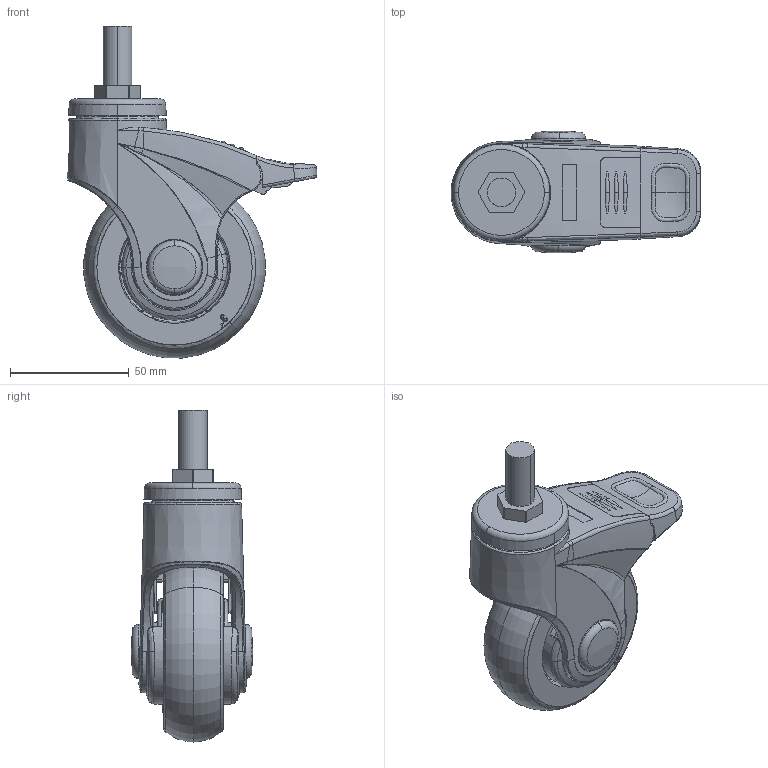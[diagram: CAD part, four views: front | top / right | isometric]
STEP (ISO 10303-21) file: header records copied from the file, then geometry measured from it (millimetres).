
FILE_DESCRIPTION(/* description */ (''),/* implementation_level */ '2;1');
FILE_NAME(/* name */ '80N11_3_F.stp',/* time_stamp */ '2022-10-17T15:50:27+08:00',/* author */ (''),/* organization */ (''),/* preprocessor_version */ 'ST-DEVELOPER v14',/* originating_system */ 'SIEMENS PLM Software NX 8.0',/* authorisation */ '');
FILE_SCHEMA (('AUTOMOTIVE_DESIGN { 1 0 10303 214 3 1 1 1 }'));
Products named in the file (1): 80N11_3_F
Bounding box: 105.07 x 51.02 x 139.6 mm (x, y, z)
Volume: 175140.5 mm3; surface area: 72540.2 mm2
Topology: 1 solids, 18 shells, 2160 faces, 6046 edges, 3944 vertices
Faces by surface type: plane 1110, cylinder 505, bspline 254, torus 146, cone 117, sphere 28
Full cylindrical faces by diameter (mm): 9.7 x4
Entity records: 94644 total; most frequent: CARTESIAN_POINT 43785, ORIENTED_EDGE 12020, DIRECTION 8693, EDGE_CURVE 6010, VERTEX_POINT 3940, AXIS2_PLACEMENT_3D 2990, LINE 2713, VECTOR 2713
